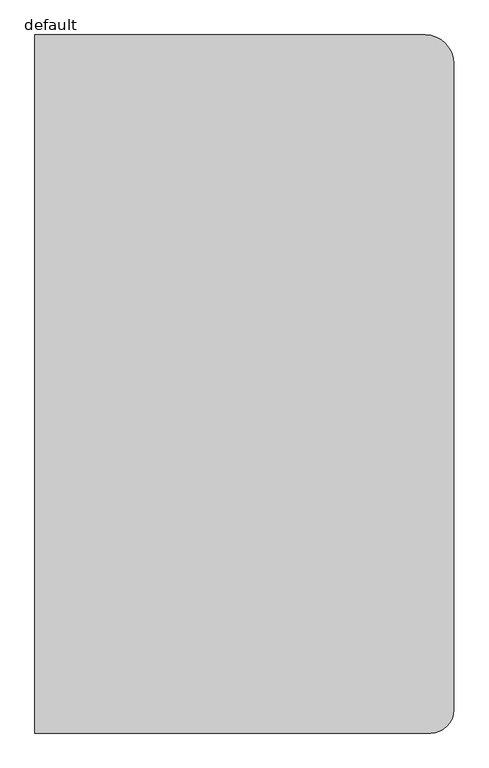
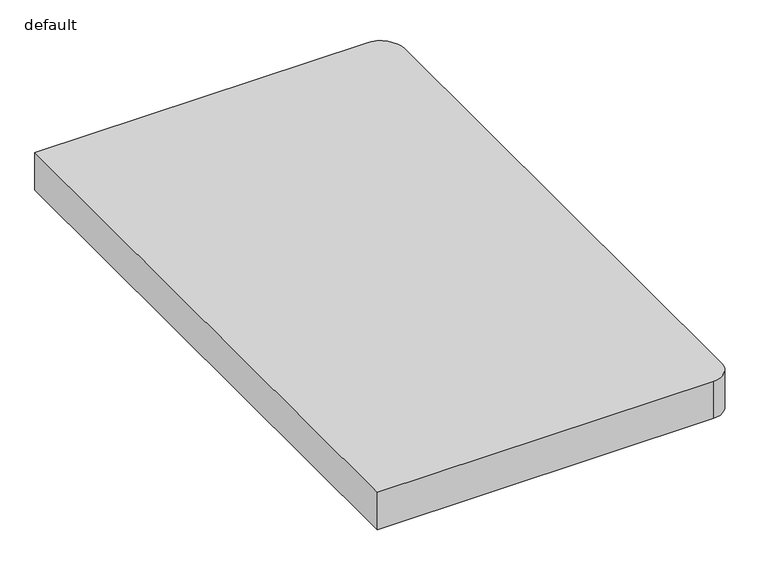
"""IFC4 building model written with IfcOpenShell, lengths in millimetres: flow terminal geometry, SP_душевой поддон_LEG : default."""

from ifc_helpers import new_model, si_unit, point, frame_2d, origin, origin_with_axes, place, context, project, spatial, polyline, circle_curve, trimmed, segment, composite_curve, outline, extrude, source, transform, mapped, element, save


def default_5434b9c1(model_context):
    return source(origin(), model_context, "Body", "SweptSolid", [
        extrude(outline(composite_curve([segment(polyline([(0.0, 0.0), (0.0, 1500.0), (838.1, 1500.0)]), True, "CONTINUOUS"), segment(trimmed(circle_curve(frame_2d((838.1, 1438.1)), 61.9), [point((838.1, 1500.0))], [point((900.0, 1438.1))], False, "CARTESIAN"), True, "CONTINUOUS"), segment(polyline([(900.0, 1438.1), (900.0, 50.0)]), True, "CONTINUOUS"), segment(trimmed(circle_curve(frame_2d((850.0, 50.0)), 50.0), [point((900.0, 50.0))], [point((850.0, 0.0))], False, "CARTESIAN"), True, "CONTINUOUS"), segment(polyline([(850.0, 0.0), (0.0, 0.0)]), True, "CONTINUOUS")], self_intersect=False)), origin_with_axes(), (0.0, 0.0, 1.0), 100.0),
    ])


if __name__ == "__main__":
    model = new_model("IFC4")
    model_context = context("Model", 3, world=origin())
    ifc_project = project(units=[si_unit("LENGTHUNIT", "METRE", prefix="MILLI")], contexts=[model_context])
    site = spatial("IfcSite", under=ifc_project)
    building = spatial("IfcBuilding", under=site)
    placement = place(None, origin())
    default_shape = default_5434b9c1(model_context)
    element("IfcFlowTerminal", 1, ObjectType="SP_душевой поддон_LEG : default", at=placement, inside=building, context=model_context, shape_type="MappedRepresentation", body=[
        mapped(default_shape, transform((0.0, 0.0, 0.0), x_axis=(1.0, 0.0, 0.0), y_axis=(0.0, 1.0, 0.0), z_axis=(0.0, 0.0, 1.0))),
    ])
    save(model, "model.ifc")
